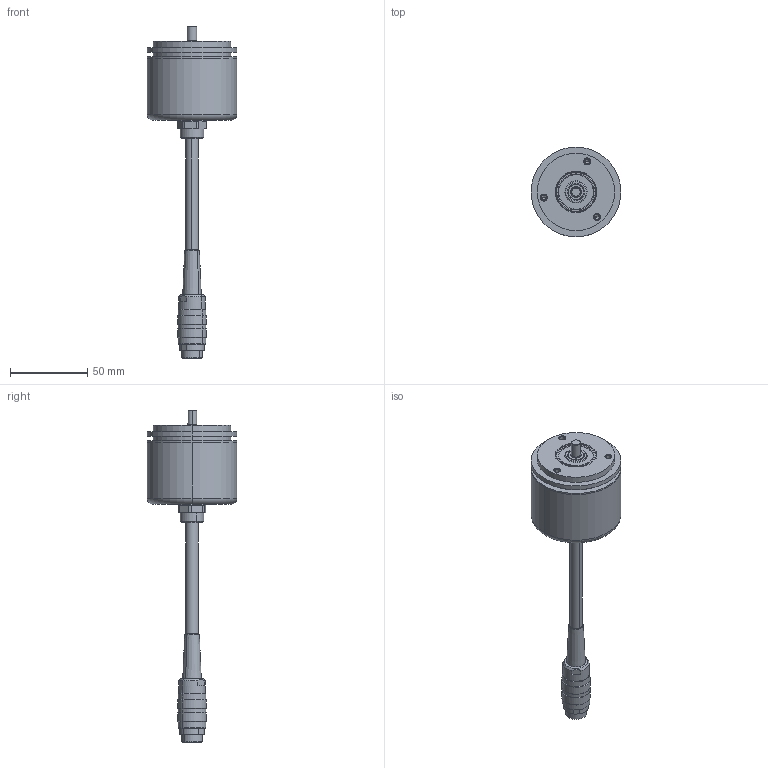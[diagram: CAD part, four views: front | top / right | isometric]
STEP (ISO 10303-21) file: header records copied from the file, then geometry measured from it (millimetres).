
FILE_DESCRIPTION (( 'STEP AP203' ), '1' );
FILE_NAME ('8.5805.C1XH.XXXX.STEP', '2012-02-10T13:29:56', ( 'Hodot' ), ( 'Kuebler' ), 'SwSTEP 2.0', 'SolidWorks 2009', '' );
FILE_SCHEMA (( 'CONFIG_CONTROL_DESIGN' ));
Length unit declared in the file: millimetre
Products named in the file (1): 8.5805.C1XH.XXXX
Bounding box: 58 x 58 x 214.45 mm (x, y, z)
Volume: 72224.5 mm3; surface area: 48147.8 mm2
Topology: 7 solids, 7 shells, 334 faces, 830 edges, 504 vertices
Faces by surface type: cylinder 139, cone 70, plane 67, sphere 32, torus 26
Entity records: 10121 total; most frequent: CARTESIAN_POINT 2255, DIRECTION 1806, ORIENTED_EDGE 1484, AXIS2_PLACEMENT_3D 777, EDGE_CURVE 742, VERTEX_POINT 474, CIRCLE 442, EDGE_LOOP 414
